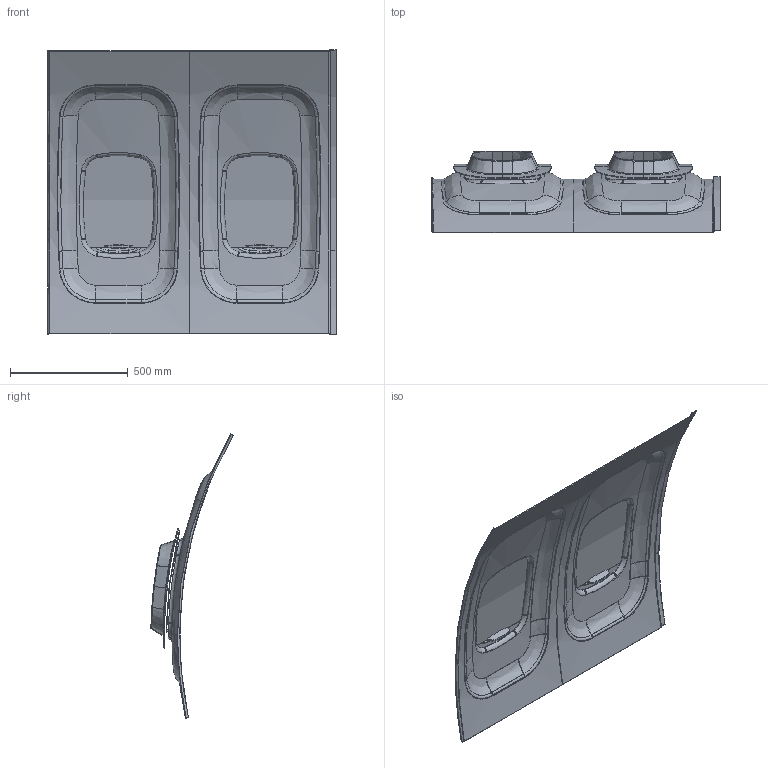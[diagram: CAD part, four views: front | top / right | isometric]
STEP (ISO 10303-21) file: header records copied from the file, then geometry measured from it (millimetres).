
FILE_DESCRIPTION(('Open CASCADE Model'),'2;1');
FILE_NAME('Open CASCADE Shape Model','2026-10-14T14:25:48',('Author'),( 'Open CASCADE'),'Open CASCADE STEP processor 7.8','Open CASCADE 7.8' ,'Unknown');
FILE_SCHEMA(('AUTOMOTIVE_DESIGN { 1 0 10303 214 1 1 1 1 }'));
Length unit declared in the file: millimetre
Products named in the file (8): Tu214_Window_v5_closed; Wall_Panel; Cup_1; Shade_1; Handle_1; Cup_2; Shade_2; Handle_2
Assembly tree (7 placements, depth 2):
  Tu214_Window_v5_closed
    Wall_Panel
    Cup_1
    Shade_1
    Handle_1
    Cup_2
    Shade_2
    Handle_2
Bounding box: 1225 x 349.01 x 1209.26 mm (x, y, z)
Volume: 5575141 mm3; surface area: 3961570.2 mm2
Topology: 7 solids, 7 shells, 538 faces, 1285 edges, 763 vertices
Faces by surface type: bspline 350, cylinder 100, cone 72, plane 12, torus 4
Entity records: 71759 total; most frequent: CARTESIAN_POINT 57747, ORIENTED_EDGE 2570, B_SPLINE_CURVE_WITH_KNOTS 1680, EDGE_CURVE 1285, PCURVE 1172, DEFINITIONAL_REPRESENTATION 1172, DIRECTION 1052, VERTEX_POINT 763
